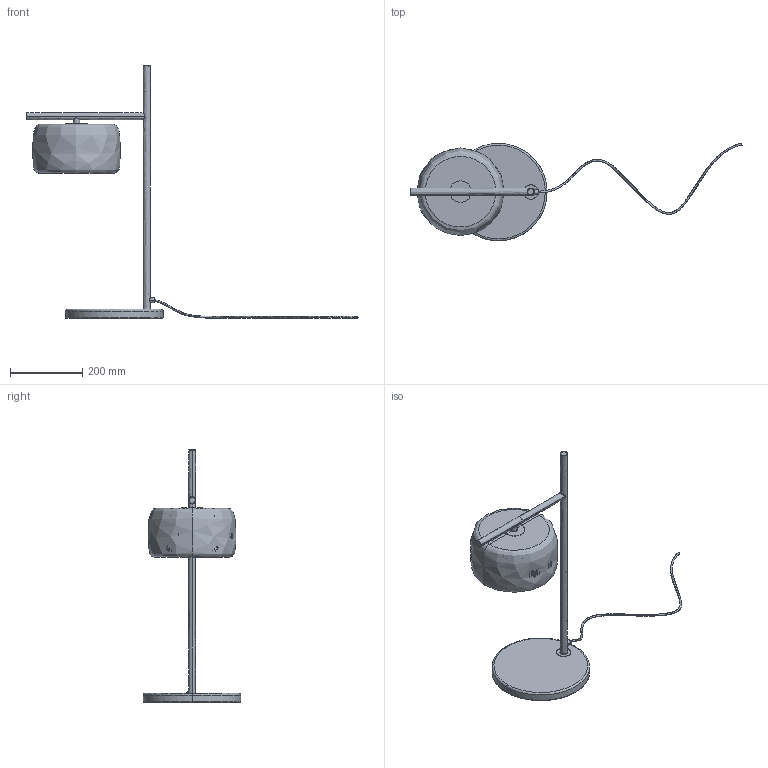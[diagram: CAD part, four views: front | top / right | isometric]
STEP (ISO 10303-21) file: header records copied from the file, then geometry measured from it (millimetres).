
FILE_DESCRIPTION (( 'STEP AP214' ), '1' );
FILE_NAME ('ISES_S1364.STEP', '2026-08-27T13:11:52', ( '' ), ( '' ), 'SwSTEP 2.0', 'SolidWorks 2023', '' );
FILE_SCHEMA (( 'AUTOMOTIVE_DESIGN' ));
Length unit declared in the file: millimetre
Products named in the file (1): ISES_S1364
Bounding box: 920.56 x 270.29 x 700 mm (x, y, z)
Surface area: 755369.1 mm2 (no closed solid volume)
Topology: 0 solids, 143 shells, 1057 faces, 2434 edges, 1535 vertices
Faces by surface type: bspline 1057
Entity records: 56654 total; most frequent: CARTESIAN_POINT 41790, ORIENTED_EDGE 4563, EDGE_CURVE 2432, B_SPLINE_CURVE_WITH_KNOTS 1667, VERTEX_POINT 1535, EDGE_LOOP 1097, FACE_OUTER_BOUND 1057, ADVANCED_FACE 1057
